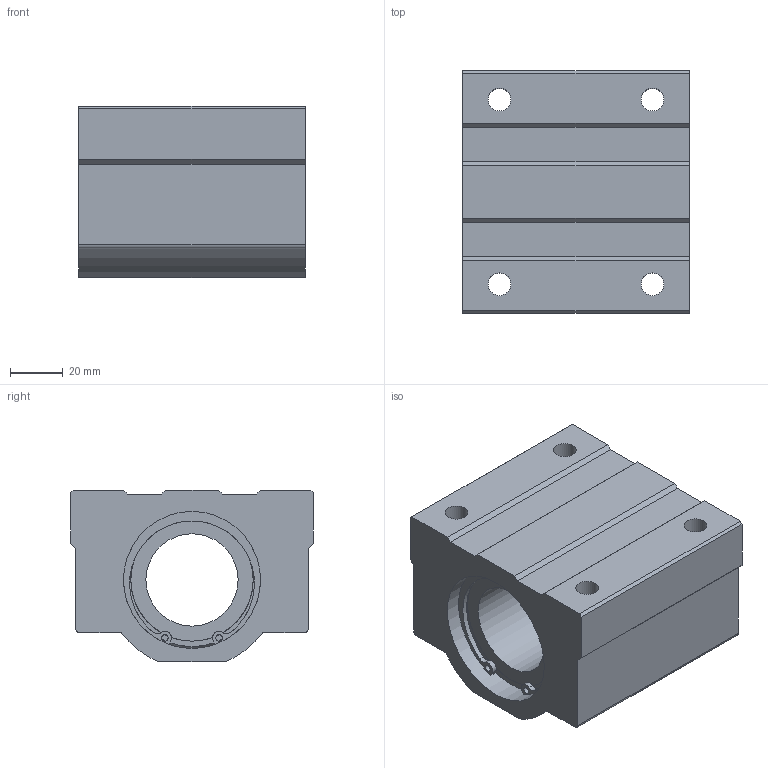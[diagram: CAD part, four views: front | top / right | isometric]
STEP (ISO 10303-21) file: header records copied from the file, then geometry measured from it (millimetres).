
FILE_DESCRIPTION((''),'2;1');
FILE_NAME('D:\製品 (図面)\カタログ用3D\リニアベアリング関連(改)\STEP形式\LH\LH35.stp','2010-01-25T10:17:13',('Tsuchiya'),(''),'Autodesk Inventor 10','Autodesk Inventor 10','');
FILE_SCHEMA(('AUTOMOTIVE_DESIGN { 1 0 10303 214 1 1 1 1 }'));
Length unit declared in the file: millimetre
Products named in the file (1): LH35
Bounding box: 86 x 92 x 65 mm (x, y, z)
Volume: 338225.3 mm3; surface area: 53567.8 mm2
Topology: 1 solids, 3 shells, 85 faces, 251 edges, 158 vertices
Faces by surface type: plane 45, cylinder 20, bspline 18, torus 2
Full cylindrical faces by diameter (mm): 2.5 x2, 35 x1, 46.4 x2, 49 x2, 52 x4
Entity records: 2824 total; most frequent: CARTESIAN_POINT 646, DIRECTION 468, ORIENTED_EDGE 424, EDGE_CURVE 212, AXIS2_PLACEMENT_3D 188, VERTEX_POINT 140, EDGE_LOOP 126, CIRCLE 120
